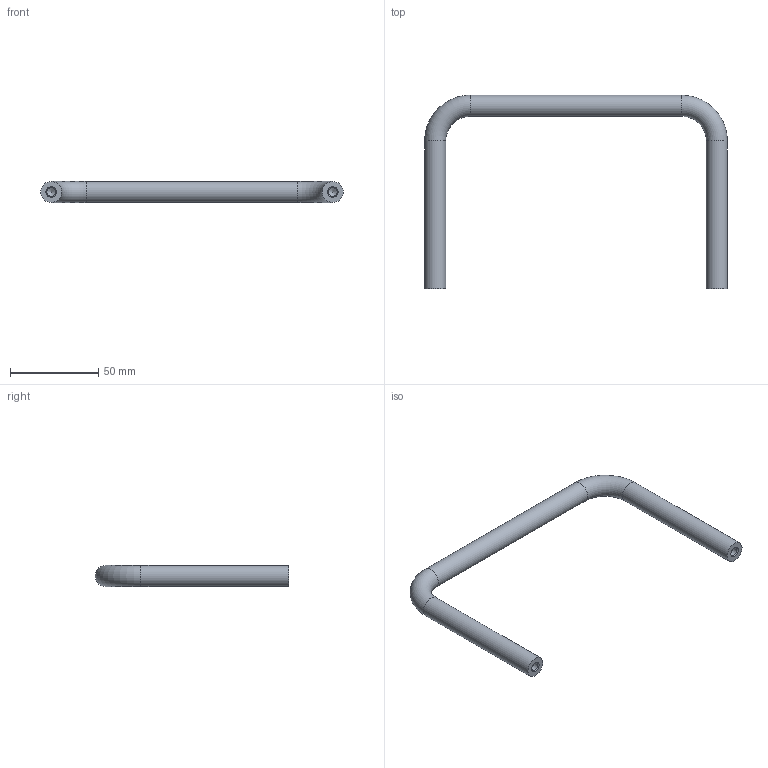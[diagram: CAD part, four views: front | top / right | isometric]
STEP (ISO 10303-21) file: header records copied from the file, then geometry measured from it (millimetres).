
FILE_DESCRIPTION(/* description */ ('STEP AP214'),/* implementation_level */ '2;1');
FILE_NAME(/* name */ 'Cabinet U-Handle_ Stainless Steel GN 435-NI-12-160-110-GS',/* time_stamp */ '2023-12-15T08:45:08+01:00',/* author */ ('License CC BY-ND 4.0'),/* organization */ ('CADENAS'),/* preprocessor_version */ 'ST-DEVELOPER v19.3',/* originating_system */ 'PARTsolutions',/* authorisation */ ' ');
FILE_SCHEMA (('AUTOMOTIVE_DESIGN {1 0 10303 214 3 1 1}'));
Length unit declared in the file: millimetre
Products named in the file (1): Cabinet U-Handle, Stainless Steel GN 435-NI-12-160-110-GS
Bounding box: 172 x 110 x 12 mm (x, y, z)
Volume: 39047 mm3; surface area: 13943.8 mm2
Topology: 1 solids, 1 shells, 13 faces, 30 edges, 19 vertices
Faces by surface type: cylinder 5, cone 4, plane 2, torus 2
Full cylindrical faces by diameter (mm): 4.917 x2, 12 x3
Entity records: 292 total; most frequent: DIRECTION 52, CARTESIAN_POINT 40, FACE_BOUND 26, AXIS2_PLACEMENT_3D 26, ORIENTED_EDGE 24, EDGE_LOOP 24, VERTEX_POINT 14, ADVANCED_FACE 13
